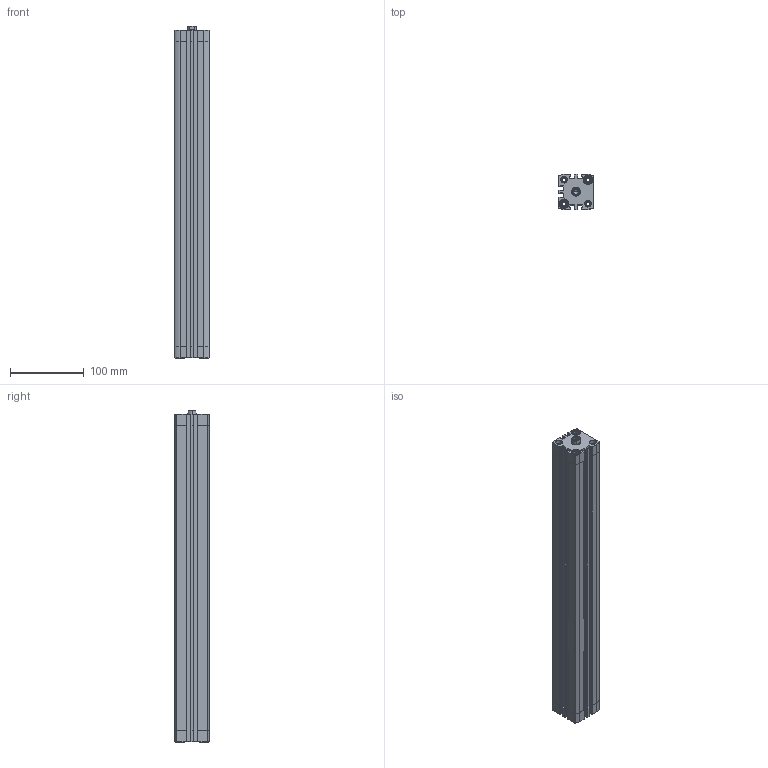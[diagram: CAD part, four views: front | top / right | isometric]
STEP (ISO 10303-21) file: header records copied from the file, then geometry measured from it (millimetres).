
FILE_DESCRIPTION (( 'STEP AP203' ), '1' );
FILE_NAME ('CCN32-400F.STEP', '2017-03-29T11:54:38', ( '' ), ( '' ), 'SwSTEP 2.0', 'SolidWorks 2016', '' );
FILE_SCHEMA (( 'CONFIG_CONTROL_DESIGN' ));
Length unit declared in the file: millimetre
Products named in the file (3): CCN-400---(Z); CCN-400_(KS); CCN32-400F
Assembly tree (2 placements, depth 2):
  CCN32-400F
    CCN-400---(Z)
    CCN-400_(KS)
Bounding box: 47 x 47 x 450 mm (x, y, z)
Volume: 529357.2 mm3; surface area: 216445.9 mm2
Topology: 2 solids, 2 shells, 479 faces, 1300 edges, 855 vertices
Faces by surface type: plane 267, cylinder 170, cone 42
Entity records: 15609 total; most frequent: CARTESIAN_POINT 2931, DIRECTION 2656, ORIENTED_EDGE 2596, EDGE_CURVE 1298, AXIS2_PLACEMENT_3D 972, VERTEX_POINT 855, VECTOR 712, LINE 712
